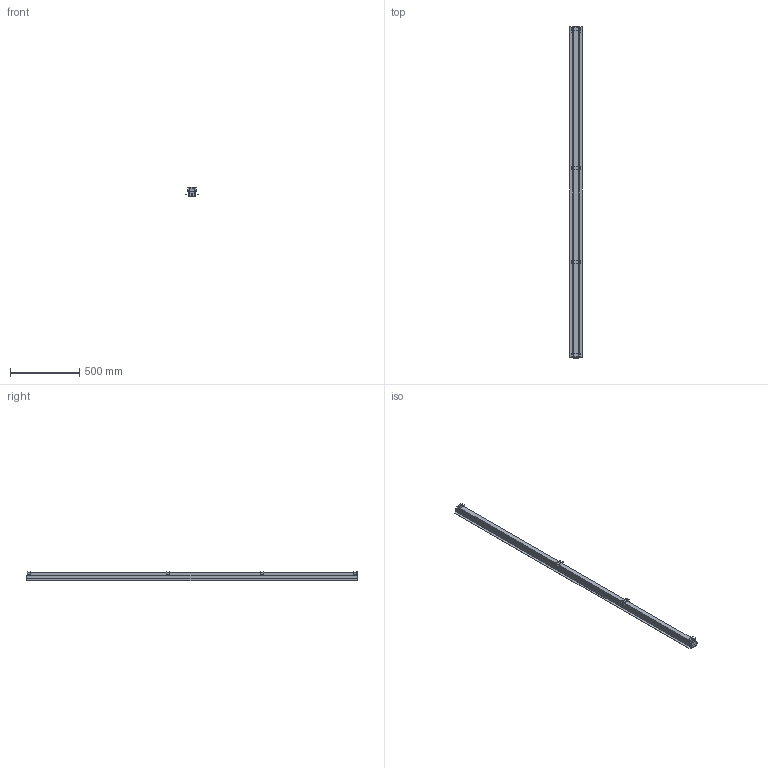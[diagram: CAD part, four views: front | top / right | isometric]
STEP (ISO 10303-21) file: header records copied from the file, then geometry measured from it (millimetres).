
FILE_DESCRIPTION(/* description */ (''),/* implementation_level */ '2;1');
FILE_NAME(/* name */ 'ATL2368__',/* time_stamp */ '2018-07-18T15:34:43+02:00',/* author */ (''),/* organization */ (''),/* preprocessor_version */ 'ST-DEVELOPER v15',/* originating_system */ '',/* authorisation */ '');
FILE_SCHEMA (('CONFIG_CONTROL_DESIGN'));
Length unit declared in the file: millimetre
Products named in the file (1): Document
Bounding box: 92.2 x 2389.08 x 68.52 mm (x, y, z)
Volume: 2954641.1 mm3; surface area: 1188865.1 mm2
Topology: 10 solids, 16 shells, 755 faces, 2408 edges, 1554 vertices
Faces by surface type: plane 423, bspline 332
Entity records: 24442 total; most frequent: CARTESIAN_POINT 10580, ORIENTED_EDGE 4648, EDGE_CURVE 2407, B_SPLINE_CURVE_WITH_KNOTS 1579, VERTEX_POINT 1554, ADVANCED_FACE 755, FACE_OUTER_BOUND 755, EDGE_LOOP 755
